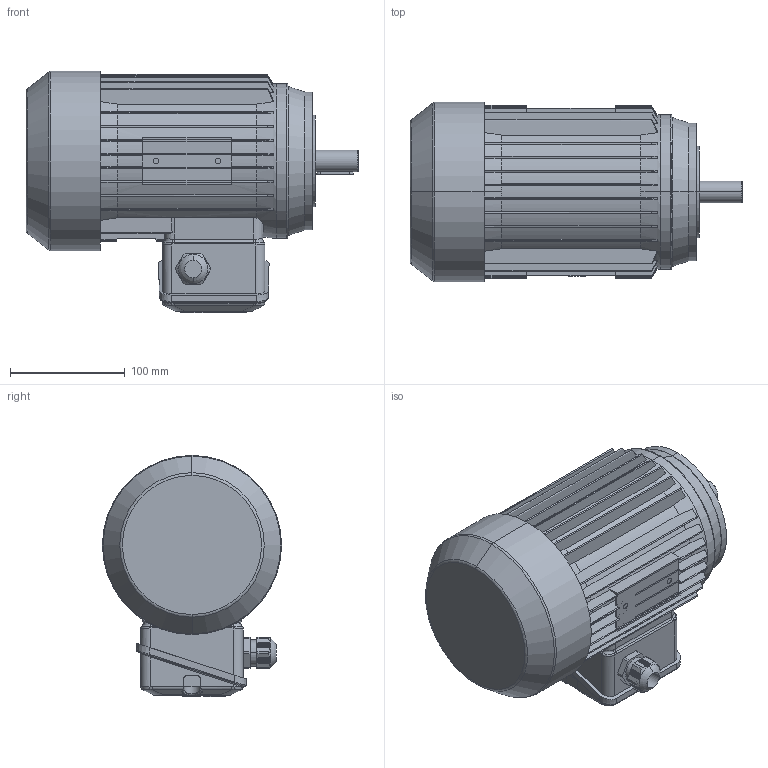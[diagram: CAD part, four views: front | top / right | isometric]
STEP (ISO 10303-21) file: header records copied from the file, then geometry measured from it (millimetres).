
FILE_DESCRIPTION (( 'STEP AP214' ), '1' );
FILE_NAME ('MAP80M2B IM3641-A FT100.STEP', '2020-12-18T11:05:31', ( '' ), ( '' ), 'SwSTEP 2.0', 'SolidWorks 2018', '' );
FILE_SCHEMA (( 'AUTOMOTIVE_DESIGN' ));
Length unit declared in the file: millimetre
Products named in the file (1): MAP80M2B IM3641-A FT100
Bounding box: 289 x 156 x 210 mm (x, y, z)
Volume: 4221978.2 mm3; surface area: 276306.5 mm2
Topology: 3 solids, 8 shells, 1017 faces, 2676 edges, 1714 vertices
Faces by surface type: plane 573, cylinder 226, bspline 118, cone 66, torus 32, sphere 2
Entity records: 37204 total; most frequent: CARTESIAN_POINT 13270, ORIENTED_EDGE 5348, DIRECTION 4468, EDGE_CURVE 2674, VERTEX_POINT 1714, LINE 1500, VECTOR 1500, AXIS2_PLACEMENT_3D 1484
